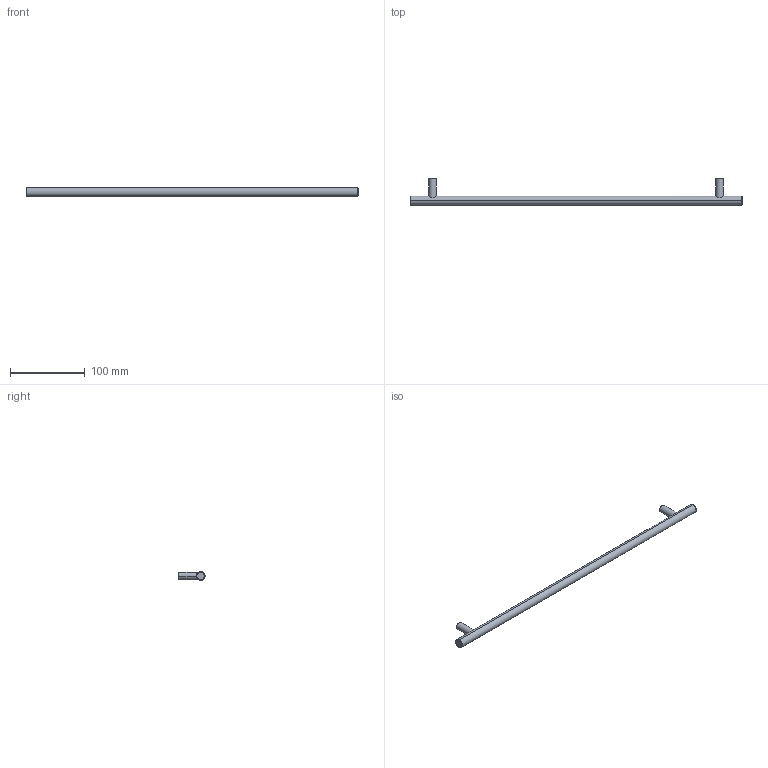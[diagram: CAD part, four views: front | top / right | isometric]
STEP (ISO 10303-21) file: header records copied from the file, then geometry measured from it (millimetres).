
FILE_DESCRIPTION( ( '' ), '1' );
FILE_NAME( 'C:/Documents and Settings/Sachin/Desktop/Sheet 10_1/stp/9070732.stp', '2013-10-22T12:36:16', ( '' ), ( '' ), ' ', ' ', ' ' );
FILE_SCHEMA( ( 'CONFIG_CONTROL_DESIGN' ) );
Length unit declared in the file: millimetre
Products named in the file (1): 1
Bounding box: 444 x 35 x 12 mm (x, y, z)
Volume: 53702.6 mm3; surface area: 18636.2 mm2
Topology: 1 solids, 1 shells, 20 faces, 44 edges, 30 vertices
Faces by surface type: cylinder 10, plane 6, torus 4
Entity records: 738 total; most frequent: CARTESIAN_POINT 229, DIRECTION 108, ORIENTED_EDGE 88, AXIS2_PLACEMENT_3D 49, EDGE_CURVE 44, VERTEX_POINT 30, CIRCLE 28, EDGE_LOOP 24
